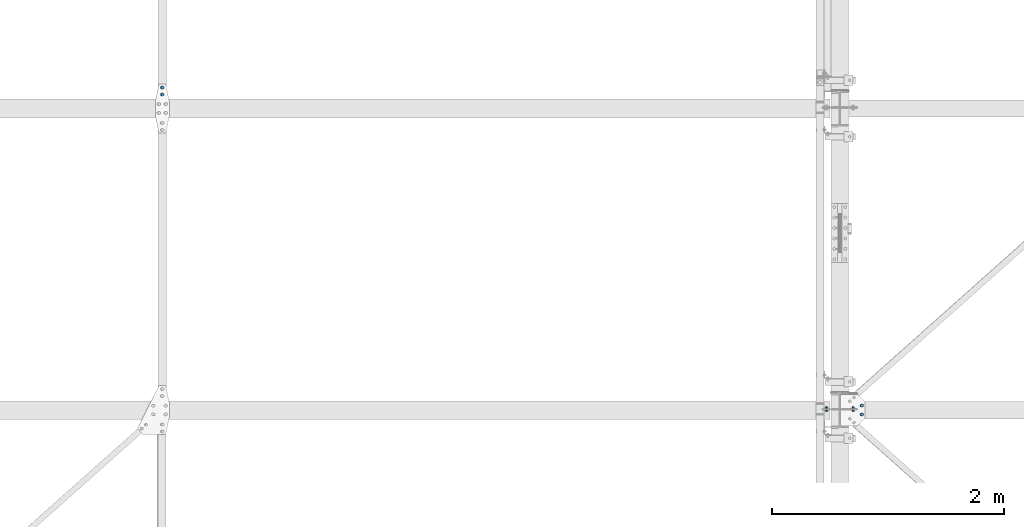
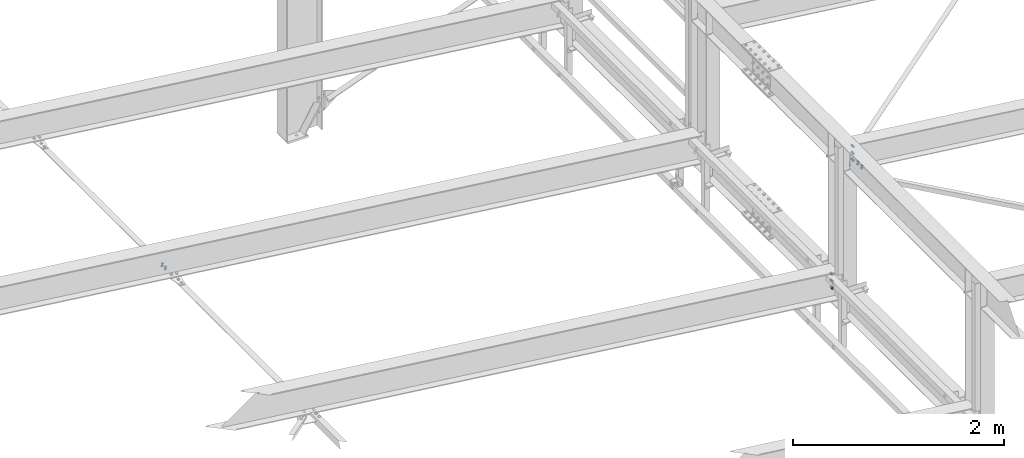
# One storey, part 271 of 3134: 4 mechanical fasteners, 3 elements without a shape of their own.
"""IFC2X3 building model written with IfcOpenShell, lengths in millimetres."""

from ifc_helpers import new_model, si_unit, frame, origin_with_axes, place, context, subcontext, project, spatial, faceted_brep, source, transform, mapped, material, type_object, element, aggregate, save


model = new_model("IFC2X3")

# Units and contexts
model_context = context("Model", 3, precision=1e-05, world=origin_with_axes())
body_context = subcontext(model_context, "Body", "Model", "MODEL_VIEW")
ifc_project = project(units=[si_unit("LENGTHUNIT", "METRE", prefix="MILLI"), si_unit("AREAUNIT", "SQUARE_METRE"), si_unit("VOLUMEUNIT", "CUBIC_METRE"), si_unit("MASSUNIT", "GRAM", prefix="KILO"), si_unit("TIMEUNIT", "SECOND"), si_unit("PLANEANGLEUNIT", "RADIAN"), si_unit("SOLIDANGLEUNIT", "STERADIAN"), si_unit("THERMODYNAMICTEMPERATUREUNIT", "DEGREE_CELSIUS"), si_unit("LUMINOUSINTENSITYUNIT", "LUMEN")], contexts=[model_context])

# Site, building, storey
site_placement = place(None, origin_with_axes())
site = spatial("IfcSite", under=ifc_project, at=site_placement, CompositionType="ELEMENT")
building_placement = place(site_placement, origin_with_axes())
building = spatial("IfcBuilding", under=site, at=building_placement, Name="Undefined", CompositionType="ELEMENT")
storey_placement = place(building_placement, origin_with_axes())
storey = spatial("IfcBuildingStorey", under=building, at=storey_placement, Name="Undefined", CompositionType="ELEMENT", Elevation=0.0)

# Assembly, mechanical fastener
assembly_1_placement = place(storey_placement, origin_with_axes())
assembly_1 = element("IfcElementAssembly", 1, at=assembly_1_placement, inside=storey, AssemblyPlace="NOTDEFINED", PredefinedType="RIGID_FRAME")
ifc_material = material(Name="8.8")
mechanical_fastener_type = type_object("IfcMechanicalFastenerType", Name="Bolt assembly")
shared_shape_1 = source(origin_with_axes(), body_context, "Body", "Brep", [
    faceted_brep([(13.856406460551, -10.0, 0.0), (6.92820323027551, -10.0, 12.0), (-6.92820323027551, -10.0, 12.0), (-13.856406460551, -10.0, 1.69692038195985e-15), (-6.92820323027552, -10.0, -12.0), (6.9282032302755, -10.0, -12.0), (6.9282032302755, 0.0, -12.0), (-6.92820323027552, 0.0, -12.0), (-13.856406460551, 0.0, 1.69692038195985e-15), (-6.92820323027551, 0.0, 12.0), (6.92820323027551, 0.0, 12.0), (13.856406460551, 0.0, 0.0), (8.0, 0.0, 0.0), (6.92820323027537, 0.0, 4.00000000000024), (3.99999999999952, 0.0, 6.92820323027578), (-8.29068785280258e-13, 0.0, 8.0), (-4.00000000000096, 0.0, 6.92820323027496), (-6.9282032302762, 0.0, 3.99999999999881), (-8.0, 0.0, -1.65813757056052e-12), (-6.92820323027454, 0.0, -4.00000000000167), (-3.99999999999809, 0.0, -6.92820323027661), (2.47832457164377e-12, 0.0, -8.0), (4.00000000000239, 0.0, -6.92820323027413), (6.92820323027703, 0.0, -3.99999999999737), (6.92820323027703, 35.0000000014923, -3.99999999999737), (4.00000000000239, 35.0000000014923, -6.92820323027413), (2.47832457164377e-12, 35.0000000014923, -8.0), (-3.99999999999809, 35.0000000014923, -6.92820323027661), (-6.92820323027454, 35.0000000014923, -4.00000000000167), (-8.0, 35.0000000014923, -1.65813757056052e-12), (-6.9282032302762, 35.0000000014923, 3.99999999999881), (-4.00000000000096, 35.0000000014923, 6.92820323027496), (-8.29068785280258e-13, 35.0000000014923, 8.0), (3.99999999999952, 35.0000000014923, 6.92820323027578), (6.92820323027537, 35.0000000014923, 4.00000000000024), (8.0, 35.0000000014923, 0.0), (13.856406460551, 15.0039204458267, 0.0), (6.92820323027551, 15.0039204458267, 12.0), (-6.92820323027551, 15.0039204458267, 12.0), (-13.856406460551, 15.0039204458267, 1.69692038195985e-15), (-6.92820323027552, 15.0039204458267, -12.0), (6.9282032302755, 15.0039204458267, -12.0), (6.9282032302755, 28.0039204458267, -12.0), (-6.92820323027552, 28.0039204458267, -12.0), (-13.856406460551, 28.0039204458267, 1.69692038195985e-15), (-6.92820323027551, 28.0039204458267, 12.0), (6.92820323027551, 28.0039204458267, 12.0), (13.856406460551, 28.0039204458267, 0.0)], [[[0, 1, 2, 3, 4, 5]], [[6, 7, 8, 9, 10, 11]], [[0, 11, 10, 1]], [[1, 10, 9, 2]], [[2, 9, 8, 3]], [[3, 8, 7, 4]], [[4, 7, 6, 5]], [[5, 6, 11, 0]], [[12, 13, 14, 15, 16, 17, 18, 19, 20, 21, 22, 23]], [[24, 25, 26, 27, 28, 29, 30, 31, 32, 33, 34, 35]], [[12, 35, 34, 13]], [[13, 34, 33, 14]], [[14, 33, 32, 15]], [[15, 32, 31, 16]], [[16, 31, 30, 17]], [[17, 30, 29, 18]], [[18, 29, 28, 19]], [[19, 28, 27, 20]], [[20, 27, 26, 21]], [[21, 26, 25, 22]], [[22, 25, 24, 23]], [[23, 24, 35, 12]], [[36, 37, 38, 39, 40, 41]], [[42, 43, 44, 45, 46, 47]], [[36, 47, 46, 37]], [[37, 46, 45, 38]], [[38, 45, 44, 39]], [[39, 44, 43, 40]], [[40, 43, 42, 41]], [[41, 42, 47, 36]]]),
    faceted_brep([(9.0, 0.100000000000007, 0.0), (7.79422863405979, 0.100000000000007, 4.50000000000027), (4.49999999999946, 0.100000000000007, 7.79422863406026), (-9.3270238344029e-13, 0.100000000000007, 9.0), (-4.50000000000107, 0.100000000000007, 7.79422863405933), (-7.79422863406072, 0.100000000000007, 4.49999999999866), (-9.0, 0.100000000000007, -1.86540476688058e-12), (-7.79422863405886, 0.100000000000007, -4.50000000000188), (-4.49999999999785, 0.100000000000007, -7.79422863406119), (2.78811514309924e-12, 0.100000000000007, -9.0), (4.50000000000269, 0.100000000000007, -7.7942286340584), (7.79422863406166, 0.100000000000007, -4.49999999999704), (7.79422863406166, 8.1, -4.49999999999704), (4.50000000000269, 8.1, -7.7942286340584), (2.78811514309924e-12, 8.1, -9.0), (-4.49999999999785, 8.1, -7.79422863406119), (-7.79422863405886, 8.1, -4.50000000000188), (-9.0, 8.1, -1.86540476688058e-12), (-7.79422863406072, 8.1, 4.49999999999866), (-4.50000000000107, 8.1, 7.79422863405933), (-9.3270238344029e-13, 8.1, 9.0), (4.49999999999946, 8.1, 7.79422863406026), (7.79422863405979, 8.1, 4.50000000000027), (9.0, 8.1, 0.0), (9.0, 7.90392044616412, 0.0), (7.79422863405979, 7.90392044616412, 4.50000000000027), (4.49999999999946, 7.90392044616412, 7.79422863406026), (-9.3270238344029e-13, 7.90392044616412, 9.0), (-4.50000000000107, 7.90392044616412, 7.79422863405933), (-7.79422863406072, 7.90392044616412, 4.49999999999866), (-9.0, 7.90392044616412, -1.86540476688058e-12), (-7.79422863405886, 7.90392044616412, -4.50000000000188), (-4.49999999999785, 7.90392044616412, -7.79422863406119), (2.78811514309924e-12, 7.90392044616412, -9.0), (4.50000000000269, 7.90392044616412, -7.7942286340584), (7.79422863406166, 7.90392044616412, -4.49999999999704), (7.79422863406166, 15.0039204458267, -4.49999999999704), (4.50000000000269, 15.0039204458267, -7.7942286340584), (2.78811514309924e-12, 15.0039204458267, -9.0), (-4.49999999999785, 15.0039204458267, -7.79422863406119), (-7.79422863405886, 15.0039204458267, -4.50000000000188), (-9.0, 15.0039204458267, -1.86540476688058e-12), (-7.79422863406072, 15.0039204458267, 4.49999999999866), (-4.50000000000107, 15.0039204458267, 7.79422863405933), (-9.3270238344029e-13, 15.0039204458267, 9.0), (4.49999999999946, 15.0039204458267, 7.79422863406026), (7.79422863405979, 15.0039204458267, 4.50000000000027), (9.0, 15.0039204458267, 0.0)], [[[0, 1, 2, 3, 4, 5, 6, 7, 8, 9, 10, 11]], [[12, 13, 14, 15, 16, 17, 18, 19, 20, 21, 22, 23]], [[0, 23, 22, 1]], [[1, 22, 21, 2]], [[2, 21, 20, 3]], [[3, 20, 19, 4]], [[4, 19, 18, 5]], [[5, 18, 17, 6]], [[6, 17, 16, 7]], [[7, 16, 15, 8]], [[8, 15, 14, 9]], [[9, 14, 13, 10]], [[10, 13, 12, 11]], [[11, 12, 23, 0]], [[24, 25, 26, 27, 28, 29, 30, 31, 32, 33, 34, 35]], [[36, 37, 38, 39, 40, 41, 42, 43, 44, 45, 46, 47]], [[24, 47, 46, 25]], [[25, 46, 45, 26]], [[26, 45, 44, 27]], [[27, 44, 43, 28]], [[28, 43, 42, 29]], [[29, 42, 41, 30]], [[30, 41, 40, 31]], [[31, 40, 39, 32]], [[32, 39, 38, 33]], [[33, 38, 37, 34]], [[34, 37, 36, 35]], [[35, 36, 47, 24]]]),
])
mechanical_fastener_1_placement = place(assembly_1_placement, frame((38358.9798217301, 53430.0, 4773.97816653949), z_axis=(0.992623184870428, 0.0, -0.121240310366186), x_axis=(0.0, -1.0, 0.0)))
mechanical_fastener_1 = element("IfcMechanicalFastener", 2, at=mechanical_fastener_1_placement, type_object=mechanical_fastener_type, material=ifc_material, Name="Bolt assembly", NominalDiameter=16.0, NominalLength=35.0, context=body_context, shape_type="MappedRepresentation", body=[
    mapped(shared_shape_1, transform((0.0, 0.0, 0.0))),
    mapped(shared_shape_1, transform((59.9999999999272, 0.0, 5.40239852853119e-10))),
])
aggregate(assembly_1, [mechanical_fastener_1])

assembly_2_placement = place(storey_placement, origin_with_axes())
assembly_2 = element("IfcElementAssembly", 3, at=assembly_2_placement, inside=storey, Name="300", AssemblyPlace="NOTDEFINED", PredefinedType="RIGID_FRAME")
shared_shape_2 = source(origin_with_axes(), body_context, "Body", "Brep", [
    faceted_brep([(13.856406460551, -19.199990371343, 0.0), (6.92820323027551, -19.199990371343, 12.0), (-6.92820323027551, -19.199990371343, 12.0), (-13.856406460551, -19.199990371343, 1.69692038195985e-15), (-6.92820323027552, -19.199990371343, -12.0), (6.9282032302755, -19.199990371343, -12.0), (6.9282032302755, -9.19999037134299, -12.0), (-6.92820323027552, -9.19999037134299, -12.0), (-13.856406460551, -9.19999037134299, 1.69692038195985e-15), (-6.92820323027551, -9.19999037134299, 12.0), (6.92820323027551, -9.19999037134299, 12.0), (13.856406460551, -9.19999037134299, 0.0), (8.0, -9.19999037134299, 0.0), (6.92820323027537, -9.19999037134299, 4.00000000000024), (3.99999999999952, -9.19999037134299, 6.92820323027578), (-8.29068785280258e-13, -9.19999037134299, 8.0), (-4.00000000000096, -9.19999037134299, 6.92820323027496), (-6.9282032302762, -9.19999037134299, 3.99999999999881), (-8.0, -9.19999037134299, -1.65813757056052e-12), (-6.92820323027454, -9.19999037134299, -4.00000000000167), (-3.99999999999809, -9.19999037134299, -6.92820323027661), (2.47832457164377e-12, -9.19999037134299, -8.0), (4.00000000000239, -9.19999037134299, -6.92820323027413), (6.92820323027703, -9.19999037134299, -3.99999999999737), (6.92820323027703, 25.800009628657, -3.99999999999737), (4.00000000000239, 25.800009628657, -6.92820323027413), (2.47832457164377e-12, 25.800009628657, -8.0), (-3.99999999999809, 25.800009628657, -6.92820323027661), (-6.92820323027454, 25.800009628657, -4.00000000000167), (-8.0, 25.800009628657, -1.65813757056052e-12), (-6.9282032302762, 25.800009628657, 3.99999999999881), (-4.00000000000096, 25.800009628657, 6.92820323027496), (-8.29068785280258e-13, 25.800009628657, 8.0), (3.99999999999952, 25.800009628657, 6.92820323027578), (6.92820323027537, 25.800009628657, 4.00000000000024), (8.0, 25.800009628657, 0.0), (13.856406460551, 8.00000637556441, 0.0), (6.92820323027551, 8.00000637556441, 12.0), (-6.92820323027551, 8.00000637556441, 12.0), (-13.856406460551, 8.00000637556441, 1.69692038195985e-15), (-6.92820323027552, 8.00000637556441, -12.0), (6.9282032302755, 8.00000637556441, -12.0), (6.9282032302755, 21.0000063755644, -12.0), (-6.92820323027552, 21.0000063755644, -12.0), (-13.856406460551, 21.0000063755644, 1.69692038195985e-15), (-6.92820323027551, 21.0000063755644, 12.0), (6.92820323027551, 21.0000063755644, 12.0), (13.856406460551, 21.0000063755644, 0.0)], [[[0, 1, 2, 3, 4, 5]], [[6, 7, 8, 9, 10, 11]], [[0, 11, 10, 1]], [[1, 10, 9, 2]], [[2, 9, 8, 3]], [[3, 8, 7, 4]], [[4, 7, 6, 5]], [[5, 6, 11, 0]], [[12, 13, 14, 15, 16, 17, 18, 19, 20, 21, 22, 23]], [[24, 25, 26, 27, 28, 29, 30, 31, 32, 33, 34, 35]], [[12, 35, 34, 13]], [[13, 34, 33, 14]], [[14, 33, 32, 15]], [[15, 32, 31, 16]], [[16, 31, 30, 17]], [[17, 30, 29, 18]], [[18, 29, 28, 19]], [[19, 28, 27, 20]], [[20, 27, 26, 21]], [[21, 26, 25, 22]], [[22, 25, 24, 23]], [[23, 24, 35, 12]], [[36, 37, 38, 39, 40, 41]], [[42, 43, 44, 45, 46, 47]], [[36, 47, 46, 37]], [[37, 46, 45, 38]], [[38, 45, 44, 39]], [[39, 44, 43, 40]], [[40, 43, 42, 41]], [[41, 42, 47, 36]]]),
    faceted_brep([(9.0, -0.1, 0.0), (7.79422863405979, -0.1, 4.50000000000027), (4.49999999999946, -0.1, 7.79422863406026), (-9.3270238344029e-13, -0.1, 9.0), (-4.50000000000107, -0.1, 7.79422863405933), (-7.79422863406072, -0.1, 4.49999999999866), (-9.0, -0.1, -1.86540476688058e-12), (-7.79422863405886, -0.1, -4.50000000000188), (-4.49999999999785, -0.1, -7.79422863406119), (2.78811514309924e-12, -0.1, -9.0), (4.50000000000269, -0.1, -7.7942286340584), (7.79422863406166, -0.1, -4.49999999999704), (7.79422863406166, 8.00000000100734, -4.49999999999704), (4.50000000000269, 8.00000000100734, -7.7942286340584), (2.78811514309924e-12, 8.00000000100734, -9.0), (-4.49999999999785, 8.00000000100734, -7.79422863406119), (-7.79422863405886, 8.00000000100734, -4.50000000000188), (-9.0, 8.00000000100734, -1.86540476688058e-12), (-7.79422863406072, 8.00000000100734, 4.49999999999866), (-4.50000000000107, 8.00000000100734, 7.79422863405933), (-9.3270238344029e-13, 8.00000000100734, 9.0), (4.49999999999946, 8.00000000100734, 7.79422863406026), (7.79422863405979, 8.00000000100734, 4.50000000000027), (9.0, 8.00000000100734, 0.0), (9.0, -9.09999037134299, 0.0), (7.79422863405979, -9.09999037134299, 4.50000000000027), (4.49999999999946, -9.09999037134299, 7.79422863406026), (-9.3270238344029e-13, -9.09999037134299, 9.0), (-4.50000000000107, -9.09999037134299, 7.79422863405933), (-7.79422863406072, -9.09999037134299, 4.49999999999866), (-9.0, -9.09999037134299, -1.86540476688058e-12), (-7.79422863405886, -9.09999037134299, -4.50000000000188), (-4.49999999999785, -9.09999037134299, -7.79422863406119), (2.78811514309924e-12, -9.09999037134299, -9.0), (4.50000000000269, -9.09999037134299, -7.7942286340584), (7.79422863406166, -9.09999037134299, -4.49999999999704), (7.79422863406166, 0.100000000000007, -4.49999999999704), (4.50000000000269, 0.100000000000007, -7.7942286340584), (2.78811514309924e-12, 0.100000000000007, -9.0), (-4.49999999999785, 0.100000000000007, -7.79422863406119), (-7.79422863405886, 0.100000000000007, -4.50000000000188), (-9.0, 0.100000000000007, -1.86540476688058e-12), (-7.79422863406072, 0.100000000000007, 4.49999999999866), (-4.50000000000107, 0.100000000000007, 7.79422863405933), (-9.3270238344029e-13, 0.100000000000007, 9.0), (4.49999999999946, 0.100000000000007, 7.79422863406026), (7.79422863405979, 0.100000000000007, 4.50000000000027), (9.0, 0.100000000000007, 0.0)], [[[0, 1, 2, 3, 4, 5, 6, 7, 8, 9, 10, 11]], [[12, 13, 14, 15, 16, 17, 18, 19, 20, 21, 22, 23]], [[0, 23, 22, 1]], [[1, 22, 21, 2]], [[2, 21, 20, 3]], [[3, 20, 19, 4]], [[4, 19, 18, 5]], [[5, 18, 17, 6]], [[6, 17, 16, 7]], [[7, 16, 15, 8]], [[8, 15, 14, 9]], [[9, 14, 13, 10]], [[10, 13, 12, 11]], [[11, 12, 23, 0]], [[24, 25, 26, 27, 28, 29, 30, 31, 32, 33, 34, 35]], [[36, 37, 38, 39, 40, 41, 42, 43, 44, 45, 46, 47]], [[24, 47, 46, 25]], [[25, 46, 45, 26]], [[26, 45, 44, 27]], [[27, 44, 43, 28]], [[28, 43, 42, 29]], [[29, 42, 41, 30]], [[30, 41, 40, 31]], [[31, 40, 39, 32]], [[32, 39, 38, 33]], [[33, 38, 37, 34]], [[34, 37, 36, 35]], [[35, 36, 47, 24]]]),
])
mechanical_fastener_2_placement = place(assembly_2_placement, frame((44389.2248161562, 50687.9995130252, 5496.68063428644), z_axis=(0.992623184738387, 1.63108538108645e-05, -0.12124031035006), x_axis=(1.62000016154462e-05, -0.999999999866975, -1.90000018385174e-06)))
mechanical_fastener_2 = element("IfcMechanicalFastener", 4, at=mechanical_fastener_2_placement, type_object=mechanical_fastener_type, material=ifc_material, Name="Bolt assembly", NominalDiameter=16.0, NominalLength=35.0, context=body_context, shape_type="MappedRepresentation", body=[
    mapped(shared_shape_2, transform((0.0, 0.0, 0.0))),
    mapped(shared_shape_2, transform((76.0, 0.0, 0.0))),
])

assembly_3_placement = place(storey_placement, origin_with_axes())
assembly_3 = element("IfcElementAssembly", 5, at=assembly_3_placement, inside=storey, Name="IPE330", AssemblyPlace="NOTDEFINED", PredefinedType="RIGID_FRAME")
shared_shape_3 = source(origin_with_axes(), body_context, "Body", "Brep", [
    faceted_brep([(13.856406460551, -13.75, 0.0), (6.92820323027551, -13.75, 12.0), (-6.92820323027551, -13.75, 12.0), (-13.856406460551, -13.75, 1.69692038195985e-15), (-6.92820323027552, -13.75, -12.0), (6.9282032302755, -13.75, -12.0), (6.9282032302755, -3.75, -12.0), (-6.92820323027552, -3.75, -12.0), (-13.856406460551, -3.75, 1.69692038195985e-15), (-6.92820323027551, -3.75, 12.0), (6.92820323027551, -3.75, 12.0), (13.856406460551, -3.75, 0.0), (8.0, -3.75, 0.0), (6.92820323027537, -3.75, 4.00000000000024), (3.99999999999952, -3.75, 6.92820323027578), (-8.29068785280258e-13, -3.75, 8.0), (-4.00000000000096, -3.75, 6.92820323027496), (-6.9282032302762, -3.75, 3.99999999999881), (-8.0, -3.75, -1.65813757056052e-12), (-6.92820323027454, -3.75, -4.00000000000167), (-3.99999999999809, -3.75, -6.92820323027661), (2.47832457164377e-12, -3.75, -8.0), (4.00000000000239, -3.75, -6.92820323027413), (6.92820323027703, -3.75, -3.99999999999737), (6.92820323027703, 31.25, -3.99999999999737), (4.00000000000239, 31.25, -6.92820323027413), (2.47832457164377e-12, 31.25, -8.0), (-3.99999999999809, 31.25, -6.92820323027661), (-6.92820323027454, 31.25, -4.00000000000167), (-8.0, 31.25, -1.65813757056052e-12), (-6.9282032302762, 31.25, 3.99999999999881), (-4.00000000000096, 31.25, 6.92820323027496), (-8.29068785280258e-13, 31.25, 8.0), (3.99999999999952, 31.25, 6.92820323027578), (6.92820323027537, 31.25, 4.00000000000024), (8.0, 31.25, 0.0), (13.856406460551, 13.0500000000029, 0.0), (6.92820323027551, 13.0500000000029, 12.0), (-6.92820323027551, 13.0500000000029, 12.0), (-13.856406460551, 13.0500000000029, 1.69692038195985e-15), (-6.92820323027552, 13.0500000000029, -12.0), (6.9282032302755, 13.0500000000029, -12.0), (6.9282032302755, 26.0500000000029, -12.0), (-6.92820323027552, 26.0500000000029, -12.0), (-13.856406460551, 26.0500000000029, 1.69692038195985e-15), (-6.92820323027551, 26.0500000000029, 12.0), (6.92820323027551, 26.0500000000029, 12.0), (13.856406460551, 26.0500000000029, 0.0)], [[[0, 1, 2, 3, 4, 5]], [[6, 7, 8, 9, 10, 11]], [[0, 11, 10, 1]], [[1, 10, 9, 2]], [[2, 9, 8, 3]], [[3, 8, 7, 4]], [[4, 7, 6, 5]], [[5, 6, 11, 0]], [[12, 13, 14, 15, 16, 17, 18, 19, 20, 21, 22, 23]], [[24, 25, 26, 27, 28, 29, 30, 31, 32, 33, 34, 35]], [[12, 35, 34, 13]], [[13, 34, 33, 14]], [[14, 33, 32, 15]], [[15, 32, 31, 16]], [[16, 31, 30, 17]], [[17, 30, 29, 18]], [[18, 29, 28, 19]], [[19, 28, 27, 20]], [[20, 27, 26, 21]], [[21, 26, 25, 22]], [[22, 25, 24, 23]], [[23, 24, 35, 12]], [[36, 37, 38, 39, 40, 41]], [[42, 43, 44, 45, 46, 47]], [[36, 47, 46, 37]], [[37, 46, 45, 38]], [[38, 45, 44, 39]], [[39, 44, 43, 40]], [[40, 43, 42, 41]], [[41, 42, 47, 36]]]),
    faceted_brep([(9.0, 2.95000000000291, 0.0), (7.79422863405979, 2.95000000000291, 4.50000000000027), (4.49999999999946, 2.95000000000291, 7.79422863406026), (-9.3270238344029e-13, 2.95000000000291, 9.0), (-4.50000000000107, 2.95000000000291, 7.79422863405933), (-7.79422863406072, 2.95000000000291, 4.49999999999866), (-9.0, 2.95000000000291, -1.86540476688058e-12), (-7.79422863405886, 2.95000000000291, -4.50000000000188), (-4.49999999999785, 2.95000000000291, -7.79422863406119), (2.78811514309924e-12, 2.95000000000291, -9.0), (4.50000000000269, 2.95000000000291, -7.7942286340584), (7.79422863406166, 2.95000000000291, -4.49999999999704), (7.79422863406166, 13.0500000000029, -4.49999999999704), (4.50000000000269, 13.0500000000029, -7.7942286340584), (2.78811514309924e-12, 13.0500000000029, -9.0), (-4.49999999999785, 13.0500000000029, -7.79422863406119), (-7.79422863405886, 13.0500000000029, -4.50000000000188), (-9.0, 13.0500000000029, -1.86540476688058e-12), (-7.79422863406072, 13.0500000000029, 4.49999999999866), (-4.50000000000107, 13.0500000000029, 7.79422863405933), (-9.3270238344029e-13, 13.0500000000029, 9.0), (4.49999999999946, 13.0500000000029, 7.79422863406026), (7.79422863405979, 13.0500000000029, 4.50000000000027), (9.0, 13.0500000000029, 0.0), (9.0, -3.65, 0.0), (7.79422863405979, -3.65, 4.50000000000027), (4.49999999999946, -3.65, 7.79422863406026), (-9.3270238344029e-13, -3.65, 9.0), (-4.50000000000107, -3.65, 7.79422863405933), (-7.79422863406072, -3.65, 4.49999999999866), (-9.0, -3.65, -1.86540476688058e-12), (-7.79422863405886, -3.65, -4.50000000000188), (-4.49999999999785, -3.65, -7.79422863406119), (2.78811514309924e-12, -3.65, -9.0), (4.50000000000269, -3.65, -7.7942286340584), (7.79422863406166, -3.65, -4.49999999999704), (7.79422863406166, 3.85, -4.49999999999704), (4.50000000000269, 3.85, -7.7942286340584), (2.78811514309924e-12, 3.85, -9.0), (-4.49999999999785, 3.85, -7.79422863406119), (-7.79422863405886, 3.85, -4.50000000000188), (-9.0, 3.85, -1.86540476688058e-12), (-7.79422863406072, 3.85, 4.49999999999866), (-4.50000000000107, 3.85, 7.79422863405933), (-9.3270238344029e-13, 3.85, 9.0), (4.49999999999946, 3.85, 7.79422863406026), (7.79422863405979, 3.85, 4.50000000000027), (9.0, 3.85, 0.0)], [[[0, 1, 2, 3, 4, 5, 6, 7, 8, 9, 10, 11]], [[12, 13, 14, 15, 16, 17, 18, 19, 20, 21, 22, 23]], [[0, 23, 22, 1]], [[1, 22, 21, 2]], [[2, 21, 20, 3]], [[3, 20, 19, 4]], [[4, 19, 18, 5]], [[5, 18, 17, 6]], [[6, 17, 16, 7]], [[7, 16, 15, 8]], [[8, 15, 14, 9]], [[9, 14, 13, 10]], [[10, 13, 12, 11]], [[11, 12, 23, 0]], [[24, 25, 26, 27, 28, 29, 30, 31, 32, 33, 34, 35]], [[36, 37, 38, 39, 40, 41, 42, 43, 44, 45, 46, 47]], [[24, 47, 46, 25]], [[25, 46, 45, 26]], [[26, 45, 44, 27]], [[27, 44, 43, 28]], [[28, 43, 42, 29]], [[29, 42, 41, 30]], [[30, 41, 40, 31]], [[31, 40, 39, 32]], [[32, 39, 38, 33]], [[33, 38, 37, 34]], [[34, 37, 36, 35]], [[35, 36, 47, 24]]]),
])
mechanical_fastener_3_placement = place(assembly_3_placement, frame((44085.0, 50650.0, 4337.44269270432), z_axis=(1.0, 0.0, 0.0), x_axis=(0.0, 0.0, -1.0)))
mechanical_fastener_3 = element("IfcMechanicalFastener", 6, at=mechanical_fastener_3_placement, type_object=mechanical_fastener_type, material=ifc_material, Name="Bolt assembly", NominalDiameter=16.0, NominalLength=35.0, context=body_context, shape_type="MappedRepresentation", body=[
    mapped(shared_shape_3, transform((0.0, 0.0, 0.0))),
    mapped(shared_shape_3, transform((80.0, 0.0, 0.0))),
    mapped(shared_shape_3, transform((160.0, 0.0, 0.0))),
])
aggregate(assembly_3, [mechanical_fastener_3])

# Mechanical fastener
shared_shape_4 = source(origin_with_axes(), body_context, "Body", "Brep", [
    faceted_brep([(13.856406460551, -13.0499999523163, 0.0), (6.92820323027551, -13.0499999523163, 12.0), (-6.92820323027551, -13.0499999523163, 12.0), (-13.856406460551, -13.0499999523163, 1.69692038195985e-15), (-6.92820323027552, -13.0499999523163, -12.0), (6.9282032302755, -13.0499999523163, -12.0), (6.9282032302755, -3.04999995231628, -12.0), (-6.92820323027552, -3.04999995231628, -12.0), (-13.856406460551, -3.04999995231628, 1.69692038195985e-15), (-6.92820323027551, -3.04999995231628, 12.0), (6.92820323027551, -3.04999995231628, 12.0), (13.856406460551, -3.04999995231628, 0.0), (8.0, -3.04999995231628, 0.0), (6.92820323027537, -3.04999995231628, 4.00000000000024), (3.99999999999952, -3.04999995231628, 6.92820323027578), (-8.29068785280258e-13, -3.04999995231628, 8.0), (-4.00000000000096, -3.04999995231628, 6.92820323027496), (-6.9282032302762, -3.04999995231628, 3.99999999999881), (-8.0, -3.04999995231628, -1.65813757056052e-12), (-6.92820323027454, -3.04999995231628, -4.00000000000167), (-3.99999999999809, -3.04999995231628, -6.92820323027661), (2.47832457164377e-12, -3.04999995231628, -8.0), (4.00000000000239, -3.04999995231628, -6.92820323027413), (6.92820323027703, -3.04999995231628, -3.99999999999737), (6.92820323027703, 31.9500000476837, -3.99999999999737), (4.00000000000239, 31.9500000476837, -6.92820323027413), (2.47832457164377e-12, 31.9500000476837, -8.0), (-3.99999999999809, 31.9500000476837, -6.92820323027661), (-6.92820323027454, 31.9500000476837, -4.00000000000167), (-8.0, 31.9500000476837, -1.65813757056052e-12), (-6.9282032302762, 31.9500000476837, 3.99999999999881), (-4.00000000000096, 31.9500000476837, 6.92820323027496), (-8.29068785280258e-13, 31.9500000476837, 8.0), (3.99999999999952, 31.9500000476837, 6.92820323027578), (6.92820323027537, 31.9500000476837, 4.00000000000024), (8.0, 31.9500000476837, 0.0), (13.856406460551, 13.0500000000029, 0.0), (6.92820323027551, 13.0500000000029, 12.0), (-6.92820323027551, 13.0500000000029, 12.0), (-13.856406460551, 13.0500000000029, 1.69692038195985e-15), (-6.92820323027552, 13.0500000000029, -12.0), (6.9282032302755, 13.0500000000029, -12.0), (6.9282032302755, 26.0500000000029, -12.0), (-6.92820323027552, 26.0500000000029, -12.0), (-13.856406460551, 26.0500000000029, 1.69692038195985e-15), (-6.92820323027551, 26.0500000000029, 12.0), (6.92820323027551, 26.0500000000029, 12.0), (13.856406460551, 26.0500000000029, 0.0)], [[[0, 1, 2, 3, 4, 5]], [[6, 7, 8, 9, 10, 11]], [[0, 11, 10, 1]], [[1, 10, 9, 2]], [[2, 9, 8, 3]], [[3, 8, 7, 4]], [[4, 7, 6, 5]], [[5, 6, 11, 0]], [[12, 13, 14, 15, 16, 17, 18, 19, 20, 21, 22, 23]], [[24, 25, 26, 27, 28, 29, 30, 31, 32, 33, 34, 35]], [[12, 35, 34, 13]], [[13, 34, 33, 14]], [[14, 33, 32, 15]], [[15, 32, 31, 16]], [[16, 31, 30, 17]], [[17, 30, 29, 18]], [[18, 29, 28, 19]], [[19, 28, 27, 20]], [[20, 27, 26, 21]], [[21, 26, 25, 22]], [[22, 25, 24, 23]], [[23, 24, 35, 12]], [[36, 37, 38, 39, 40, 41]], [[42, 43, 44, 45, 46, 47]], [[36, 47, 46, 37]], [[37, 46, 45, 38]], [[38, 45, 44, 39]], [[39, 44, 43, 40]], [[40, 43, 42, 41]], [[41, 42, 47, 36]]]),
    faceted_brep([(9.0, 2.95000000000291, 0.0), (7.79422863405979, 2.95000000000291, 4.50000000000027), (4.49999999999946, 2.95000000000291, 7.79422863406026), (-9.3270238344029e-13, 2.95000000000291, 9.0), (-4.50000000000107, 2.95000000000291, 7.79422863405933), (-7.79422863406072, 2.95000000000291, 4.49999999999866), (-9.0, 2.95000000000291, -1.86540476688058e-12), (-7.79422863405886, 2.95000000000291, -4.50000000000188), (-4.49999999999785, 2.95000000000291, -7.79422863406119), (2.78811514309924e-12, 2.95000000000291, -9.0), (4.50000000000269, 2.95000000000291, -7.7942286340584), (7.79422863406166, 2.95000000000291, -4.49999999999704), (7.79422863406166, 13.0500000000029, -4.49999999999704), (4.50000000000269, 13.0500000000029, -7.7942286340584), (2.78811514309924e-12, 13.0500000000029, -9.0), (-4.49999999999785, 13.0500000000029, -7.79422863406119), (-7.79422863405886, 13.0500000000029, -4.50000000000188), (-9.0, 13.0500000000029, -1.86540476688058e-12), (-7.79422863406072, 13.0500000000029, 4.49999999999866), (-4.50000000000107, 13.0500000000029, 7.79422863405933), (-9.3270238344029e-13, 13.0500000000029, 9.0), (4.49999999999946, 13.0500000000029, 7.79422863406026), (7.79422863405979, 13.0500000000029, 4.50000000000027), (9.0, 13.0500000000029, 0.0), (9.0, -2.94999995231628, 0.0), (7.79422863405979, -2.94999995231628, 4.50000000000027), (4.49999999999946, -2.94999995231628, 7.79422863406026), (-9.3270238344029e-13, -2.94999995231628, 9.0), (-4.50000000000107, -2.94999995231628, 7.79422863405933), (-7.79422863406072, -2.94999995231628, 4.49999999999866), (-9.0, -2.94999995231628, -1.86540476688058e-12), (-7.79422863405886, -2.94999995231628, -4.50000000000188), (-4.49999999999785, -2.94999995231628, -7.79422863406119), (2.78811514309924e-12, -2.94999995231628, -9.0), (4.50000000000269, -2.94999995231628, -7.7942286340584), (7.79422863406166, -2.94999995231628, -4.49999999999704), (7.79422863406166, 3.14999995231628, -4.49999999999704), (4.50000000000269, 3.14999995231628, -7.7942286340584), (2.78811514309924e-12, 3.14999995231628, -9.0), (-4.49999999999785, 3.14999995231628, -7.79422863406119), (-7.79422863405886, 3.14999995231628, -4.50000000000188), (-9.0, 3.14999995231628, -1.86540476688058e-12), (-7.79422863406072, 3.14999995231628, 4.49999999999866), (-4.50000000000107, 3.14999995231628, 7.79422863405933), (-9.3270238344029e-13, 3.14999995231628, 9.0), (4.49999999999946, 3.14999995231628, 7.79422863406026), (7.79422863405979, 3.14999995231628, 4.50000000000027), (9.0, 3.14999995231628, 0.0)], [[[0, 1, 2, 3, 4, 5, 6, 7, 8, 9, 10, 11]], [[12, 13, 14, 15, 16, 17, 18, 19, 20, 21, 22, 23]], [[0, 23, 22, 1]], [[1, 22, 21, 2]], [[2, 21, 20, 3]], [[3, 20, 19, 4]], [[4, 19, 18, 5]], [[5, 18, 17, 6]], [[6, 17, 16, 7]], [[7, 16, 15, 8]], [[8, 15, 14, 9]], [[9, 14, 13, 10]], [[10, 13, 12, 11]], [[11, 12, 23, 0]], [[24, 25, 26, 27, 28, 29, 30, 31, 32, 33, 34, 35]], [[36, 37, 38, 39, 40, 41, 42, 43, 44, 45, 46, 47]], [[24, 47, 46, 25]], [[25, 46, 45, 26]], [[26, 45, 44, 27]], [[27, 44, 43, 28]], [[28, 43, 42, 29]], [[29, 42, 41, 30]], [[30, 41, 40, 31]], [[31, 40, 39, 32]], [[32, 39, 38, 33]], [[33, 38, 37, 34]], [[34, 37, 36, 35]], [[35, 36, 47, 24]]]),
])
mechanical_fastener_4_placement = place(assembly_2_placement, frame((44315.0, 50650.0, 5735.35014950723), z_axis=(1.0, 0.0, 0.0), x_axis=(0.0, 0.0, -1.0)))
mechanical_fastener_4 = element("IfcMechanicalFastener", 7, at=mechanical_fastener_4_placement, type_object=mechanical_fastener_type, material=ifc_material, Name="Bolt assembly", NominalDiameter=16.0, NominalLength=35.0, context=body_context, shape_type="MappedRepresentation", body=[
    mapped(shared_shape_4, transform((0.0, 0.0, 0.0))),
    mapped(shared_shape_4, transform((80.0, 0.0, 0.0))),
    mapped(shared_shape_4, transform((160.0, 0.0, 0.0))),
])

aggregate(assembly_2, [mechanical_fastener_4, mechanical_fastener_2])

save(model, "model.ifc")
